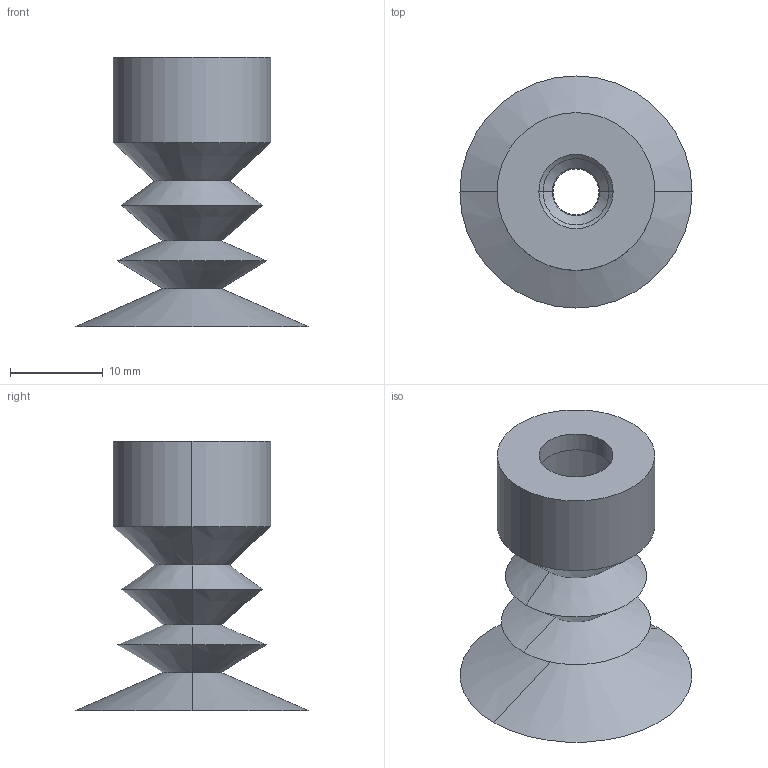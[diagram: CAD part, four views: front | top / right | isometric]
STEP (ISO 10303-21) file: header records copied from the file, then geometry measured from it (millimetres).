
FILE_DESCRIPTION (( 'STEP AP214' ), '1' );
FILE_NAME ('VSH3-M25.STEP', '2019-12-02T08:37:01', ( '微软用户' ), ( '微软中国' ), 'SwSTEP 2.0', 'SolidWorks 2016', '' );
FILE_SCHEMA (( 'AUTOMOTIVE_DESIGN' ));
Length unit declared in the file: millimetre
Products named in the file (1): VSH3-M25
Bounding box: 25 x 25 x 29 mm (x, y, z)
Volume: 1014.5 mm3; surface area: 4136.4 mm2
Topology: 1 solids, 1 shells, 36 faces, 72 edges, 40 vertices
Faces by surface type: cone 24, cylinder 8, plane 4
Entity records: 962 total; most frequent: DIRECTION 186, CARTESIAN_POINT 149, ORIENTED_EDGE 144, AXIS2_PLACEMENT_3D 77, EDGE_CURVE 72, EDGE_LOOP 40, CIRCLE 40, VERTEX_POINT 40
